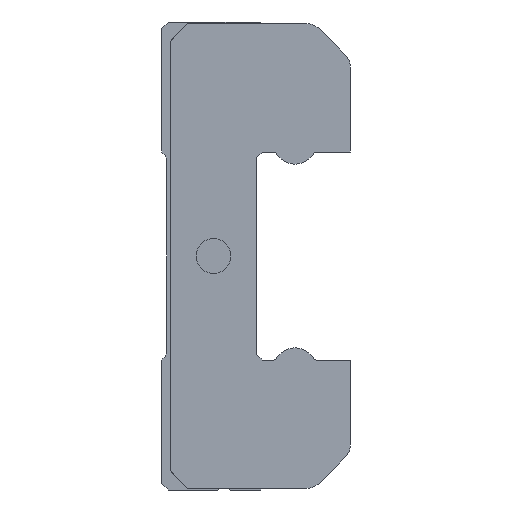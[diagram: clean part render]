
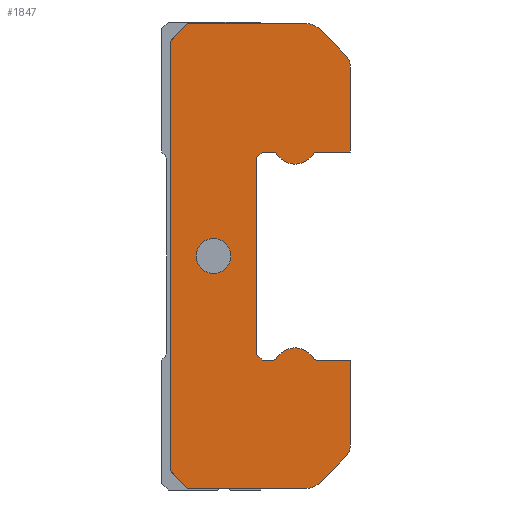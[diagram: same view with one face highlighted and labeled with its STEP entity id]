
A CAD part, left-side view. The second image highlights one B-rep face of the part: STEP entity #1847.
In plain terms, the highlighted planar face has unit normal (-1, 0, 0).
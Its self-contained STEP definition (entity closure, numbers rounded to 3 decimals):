
#47=CIRCLE('',#1984,1.);
#48=CIRCLE('',#1985,1.);
#49=CIRCLE('',#1986,1.);
#50=CIRCLE('',#1987,1.);
#51=CIRCLE('',#1988,1.);
#52=CIRCLE('',#1989,0.15);
#53=CIRCLE('',#1990,1.25);
#54=CIRCLE('',#1991,0.15);
#55=CIRCLE('',#1992,0.15);
#56=CIRCLE('',#1993,1.25);
#57=CIRCLE('',#1994,0.15);
#280=ORIENTED_EDGE('',*,*,#781,.T.);
#281=ORIENTED_EDGE('',*,*,#782,.T.);
#282=ORIENTED_EDGE('',*,*,#748,.F.);
#283=ORIENTED_EDGE('',*,*,#783,.F.);
#284=ORIENTED_EDGE('',*,*,#784,.F.);
#285=ORIENTED_EDGE('',*,*,#785,.F.);
#286=ORIENTED_EDGE('',*,*,#663,.F.);
#287=ORIENTED_EDGE('',*,*,#680,.F.);
#288=ORIENTED_EDGE('',*,*,#738,.F.);
#289=ORIENTED_EDGE('',*,*,#728,.F.);
#290=ORIENTED_EDGE('',*,*,#736,.F.);
#291=ORIENTED_EDGE('',*,*,#786,.F.);
#292=ORIENTED_EDGE('',*,*,#787,.F.);
#293=ORIENTED_EDGE('',*,*,#788,.F.);
#294=ORIENTED_EDGE('',*,*,#750,.F.);
#295=ORIENTED_EDGE('',*,*,#789,.T.);
#296=ORIENTED_EDGE('',*,*,#790,.T.);
#297=ORIENTED_EDGE('',*,*,#791,.F.);
#298=ORIENTED_EDGE('',*,*,#792,.T.);
#299=ORIENTED_EDGE('',*,*,#793,.T.);
#300=ORIENTED_EDGE('',*,*,#794,.T.);
#301=ORIENTED_EDGE('',*,*,#795,.T.);
#302=ORIENTED_EDGE('',*,*,#796,.T.);
#303=ORIENTED_EDGE('',*,*,#797,.T.);
#304=ORIENTED_EDGE('',*,*,#798,.T.);
#305=ORIENTED_EDGE('',*,*,#799,.F.);
#306=ORIENTED_EDGE('',*,*,#800,.T.);
#663=EDGE_CURVE('',#927,#928,#1107,.T.);
#680=EDGE_CURVE('',#939,#927,#1122,.T.);
#728=EDGE_CURVE('',#979,#980,#1168,.T.);
#736=EDGE_CURVE('',#984,#979,#1176,.T.);
#738=EDGE_CURVE('',#980,#939,#1178,.T.);
#748=EDGE_CURVE('',#988,#986,#1188,.T.);
#750=EDGE_CURVE('',#989,#991,#1190,.T.);
#781=EDGE_CURVE('',#1018,#1018,#47,.T.);
#782=EDGE_CURVE('',#1019,#986,#1210,.T.);
#783=EDGE_CURVE('',#1020,#988,#48,.T.);
#784=EDGE_CURVE('',#1021,#1020,#1211,.T.);
#785=EDGE_CURVE('',#928,#1021,#49,.T.);
#786=EDGE_CURVE('',#1022,#984,#50,.T.);
#787=EDGE_CURVE('',#1023,#1022,#1212,.T.);
#788=EDGE_CURVE('',#991,#1023,#51,.T.);
#789=EDGE_CURVE('',#989,#1024,#1213,.T.);
#790=EDGE_CURVE('',#1024,#1025,#52,.T.);
#791=EDGE_CURVE('',#1026,#1025,#53,.T.);
#792=EDGE_CURVE('',#1026,#1027,#54,.T.);
#793=EDGE_CURVE('',#1027,#1028,#1214,.T.);
#794=EDGE_CURVE('',#1028,#1029,#1215,.T.);
#795=EDGE_CURVE('',#1029,#1030,#1216,.T.);
#796=EDGE_CURVE('',#1030,#1031,#1217,.T.);
#797=EDGE_CURVE('',#1031,#1032,#1218,.T.);
#798=EDGE_CURVE('',#1032,#1033,#55,.T.);
#799=EDGE_CURVE('',#1034,#1033,#56,.T.);
#800=EDGE_CURVE('',#1034,#1019,#57,.T.);
#927=VERTEX_POINT('',#2675);
#928=VERTEX_POINT('',#2677);
#939=VERTEX_POINT('',#2708);
#979=VERTEX_POINT('',#2806);
#980=VERTEX_POINT('',#2808);
#984=VERTEX_POINT('',#2821);
#986=VERTEX_POINT('',#2838);
#988=VERTEX_POINT('',#2842);
#989=VERTEX_POINT('',#2846);
#991=VERTEX_POINT('',#2849);
#1018=VERTEX_POINT('',#2911);
#1019=VERTEX_POINT('',#2913);
#1020=VERTEX_POINT('',#2915);
#1021=VERTEX_POINT('',#2917);
#1022=VERTEX_POINT('',#2920);
#1023=VERTEX_POINT('',#2922);
#1024=VERTEX_POINT('',#2925);
#1025=VERTEX_POINT('',#2927);
#1026=VERTEX_POINT('',#2929);
#1027=VERTEX_POINT('',#2931);
#1028=VERTEX_POINT('',#2933);
#1029=VERTEX_POINT('',#2935);
#1030=VERTEX_POINT('',#2937);
#1031=VERTEX_POINT('',#2939);
#1032=VERTEX_POINT('',#2941);
#1033=VERTEX_POINT('',#2943);
#1034=VERTEX_POINT('',#2945);
#1107=LINE('',#2676,#1309);
#1122=LINE('',#2709,#1324);
#1168=LINE('',#2807,#1370);
#1176=LINE('',#2822,#1378);
#1178=LINE('',#2825,#1380);
#1188=LINE('',#2843,#1390);
#1190=LINE('',#2848,#1392);
#1210=LINE('',#2912,#1412);
#1211=LINE('',#2916,#1413);
#1212=LINE('',#2921,#1414);
#1213=LINE('',#2924,#1415);
#1214=LINE('',#2932,#1416);
#1215=LINE('',#2934,#1417);
#1216=LINE('',#2936,#1418);
#1217=LINE('',#2938,#1419);
#1218=LINE('',#2940,#1420);
#1309=VECTOR('',#2126,1000.);
#1324=VECTOR('',#2153,1000.);
#1370=VECTOR('',#2223,1000.);
#1378=VECTOR('',#2235,1000.);
#1380=VECTOR('',#2239,1000.);
#1390=VECTOR('',#2257,1000.);
#1392=VECTOR('',#2261,1000.);
#1412=VECTOR('',#2313,1000.);
#1413=VECTOR('',#2316,1000.);
#1414=VECTOR('',#2321,1000.);
#1415=VECTOR('',#2324,1000.);
#1416=VECTOR('',#2331,1000.);
#1417=VECTOR('',#2332,1000.);
#1418=VECTOR('',#2333,1000.);
#1419=VECTOR('',#2334,1000.);
#1420=VECTOR('',#2335,1000.);
#1529=EDGE_LOOP('',(#280));
#1530=EDGE_LOOP('',(#281,#282,#283,#284,#285,#286,#287,#288,#289,#290,#291,
#292,#293,#294,#295,#296,#297,#298,#299,#300,#301,#302,#303,#304,#305,#306));
#1651=FACE_BOUND('',#1529,.T.);
#1652=FACE_BOUND('',#1530,.T.);
#1774=PLANE('',#1983);
#1847=ADVANCED_FACE('',(#1651,#1652),#1774,.F.);
#1983=AXIS2_PLACEMENT_3D('',#2909,#2309,#2310);
#1984=AXIS2_PLACEMENT_3D('',#2910,#2311,#2312);
#1985=AXIS2_PLACEMENT_3D('',#2914,#2314,#2315);
#1986=AXIS2_PLACEMENT_3D('',#2918,#2317,#2318);
#1987=AXIS2_PLACEMENT_3D('',#2919,#2319,#2320);
#1988=AXIS2_PLACEMENT_3D('',#2923,#2322,#2323);
#1989=AXIS2_PLACEMENT_3D('',#2926,#2325,#2326);
#1990=AXIS2_PLACEMENT_3D('',#2928,#2327,#2328);
#1991=AXIS2_PLACEMENT_3D('',#2930,#2329,#2330);
#1992=AXIS2_PLACEMENT_3D('',#2942,#2336,#2337);
#1993=AXIS2_PLACEMENT_3D('',#2944,#2338,#2339);
#1994=AXIS2_PLACEMENT_3D('',#2946,#2340,#2341);
#2126=DIRECTION('',(0.,-1.,0.));
#2153=DIRECTION('',(0.,-0.707,0.707));
#2223=DIRECTION('',(0.,0.707,0.707));
#2235=DIRECTION('',(0.,1.,0.));
#2239=DIRECTION('',(0.,0.,1.));
#2257=DIRECTION('',(0.,0.,-1.));
#2261=DIRECTION('',(0.,0.,-1.));
#2309=DIRECTION('',(1.,0.,0.));
#2310=DIRECTION('',(0.,0.,-1.));
#2311=DIRECTION('',(1.,0.,0.));
#2312=DIRECTION('',(0.,0.,-1.));
#2313=DIRECTION('',(0.,-1.,0.));
#2314=DIRECTION('',(1.,0.,0.));
#2315=DIRECTION('',(0.,0.,-1.));
#2316=DIRECTION('',(0.,-0.707,-0.707));
#2317=DIRECTION('',(1.,0.,0.));
#2318=DIRECTION('',(0.,0.,-1.));
#2319=DIRECTION('',(1.,0.,0.));
#2320=DIRECTION('',(0.,0.,-1.));
#2321=DIRECTION('',(0.,0.707,-0.707));
#2322=DIRECTION('',(1.,0.,0.));
#2323=DIRECTION('',(0.,0.,-1.));
#2324=DIRECTION('',(0.,1.,0.));
#2325=DIRECTION('',(1.,0.,0.));
#2326=DIRECTION('',(0.,0.,-1.));
#2327=DIRECTION('',(1.,0.,0.));
#2328=DIRECTION('',(0.,0.,-1.));
#2329=DIRECTION('',(1.,0.,0.));
#2330=DIRECTION('',(0.,0.,-1.));
#2331=DIRECTION('',(0.,1.,0.));
#2332=DIRECTION('',(0.,0.707,0.707));
#2333=DIRECTION('',(0.,0.,1.));
#2334=DIRECTION('',(0.,-0.707,0.707));
#2335=DIRECTION('',(0.,-1.,0.));
#2336=DIRECTION('',(1.,0.,0.));
#2337=DIRECTION('',(0.,0.,-1.));
#2338=DIRECTION('',(1.,0.,0.));
#2339=DIRECTION('',(0.,0.,-1.));
#2340=DIRECTION('',(1.,0.,0.));
#2341=DIRECTION('',(0.,0.,-1.));
#2675=CARTESIAN_POINT('',(-23.55,9.5,13.4));
#2676=CARTESIAN_POINT('',(-23.55,9.5,13.4));
#2677=CARTESIAN_POINT('',(-23.55,2.614,13.4));
#2708=CARTESIAN_POINT('',(-23.55,10.5,12.4));
#2709=CARTESIAN_POINT('',(-23.55,10.5,12.4));
#2806=CARTESIAN_POINT('',(-23.55,9.5,-13.4));
#2807=CARTESIAN_POINT('',(-23.55,9.5,-13.4));
#2808=CARTESIAN_POINT('',(-23.55,10.5,-12.4));
#2821=CARTESIAN_POINT('',(-23.55,2.614,-13.4));
#2822=CARTESIAN_POINT('',(-23.55,2.614,-13.4));
#2825=CARTESIAN_POINT('',(-23.55,10.5,-12.4));
#2838=CARTESIAN_POINT('',(-23.55,0.1,6.));
#2842=CARTESIAN_POINT('',(-23.55,0.1,10.886));
#2843=CARTESIAN_POINT('',(-23.55,0.1,10.886));
#2846=CARTESIAN_POINT('',(-23.55,0.1,-6.));
#2848=CARTESIAN_POINT('',(-23.55,0.1,10.886));
#2849=CARTESIAN_POINT('',(-23.55,0.1,-10.886));
#2909=CARTESIAN_POINT('',(-23.55,2.614,12.4));
#2910=CARTESIAN_POINT('',(-23.55,8.,0.));
#2911=CARTESIAN_POINT('',(-23.55,8.,-1.));
#2912=CARTESIAN_POINT('',(-23.55,2.088,6.));
#2913=CARTESIAN_POINT('',(-23.55,2.088,6.));
#2914=CARTESIAN_POINT('',(-23.55,1.1,10.886));
#2915=CARTESIAN_POINT('',(-23.55,0.393,11.593));
#2916=CARTESIAN_POINT('',(-23.55,1.907,13.107));
#2917=CARTESIAN_POINT('',(-23.55,1.907,13.107));
#2918=CARTESIAN_POINT('',(-23.55,2.614,12.4));
#2919=CARTESIAN_POINT('',(-23.55,2.614,-12.4));
#2920=CARTESIAN_POINT('',(-23.55,1.907,-13.107));
#2921=CARTESIAN_POINT('',(-23.55,0.393,-11.593));
#2922=CARTESIAN_POINT('',(-23.55,0.393,-11.593));
#2923=CARTESIAN_POINT('',(-23.55,1.1,-10.886));
#2924=CARTESIAN_POINT('',(-23.55,-1.5,-6.));
#2925=CARTESIAN_POINT('',(-23.55,2.088,-6.));
#2926=CARTESIAN_POINT('',(-23.55,2.088,-5.85));
#2927=CARTESIAN_POINT('',(-23.55,2.217,-5.925));
#2928=CARTESIAN_POINT('',(-23.55,3.3,-6.55));
#2929=CARTESIAN_POINT('',(-23.55,4.383,-5.925));
#2930=CARTESIAN_POINT('',(-23.55,4.512,-5.85));
#2931=CARTESIAN_POINT('',(-23.55,4.512,-6.));
#2932=CARTESIAN_POINT('',(-23.55,4.512,-6.));
#2933=CARTESIAN_POINT('',(-23.55,5.2,-6.));
#2934=CARTESIAN_POINT('',(-23.55,5.2,-6.));
#2935=CARTESIAN_POINT('',(-23.55,5.5,-5.7));
#2936=CARTESIAN_POINT('',(-23.55,5.5,-5.7));
#2937=CARTESIAN_POINT('',(-23.55,5.5,5.7));
#2938=CARTESIAN_POINT('',(-23.55,5.5,5.7));
#2939=CARTESIAN_POINT('',(-23.55,5.2,6.));
#2940=CARTESIAN_POINT('',(-23.55,5.2,6.));
#2941=CARTESIAN_POINT('',(-23.55,4.512,6.));
#2942=CARTESIAN_POINT('',(-23.55,4.512,5.85));
#2943=CARTESIAN_POINT('',(-23.55,4.383,5.925));
#2944=CARTESIAN_POINT('',(-23.55,3.3,6.55));
#2945=CARTESIAN_POINT('',(-23.55,2.217,5.925));
#2946=CARTESIAN_POINT('',(-23.55,2.088,5.85));
